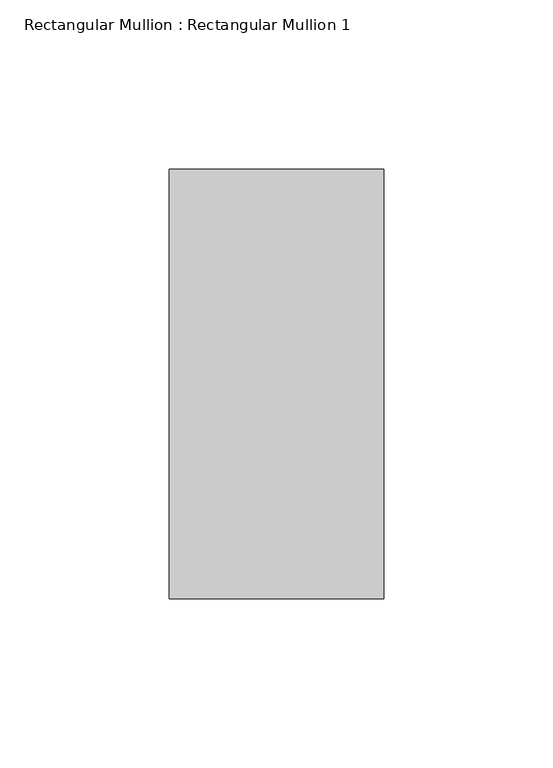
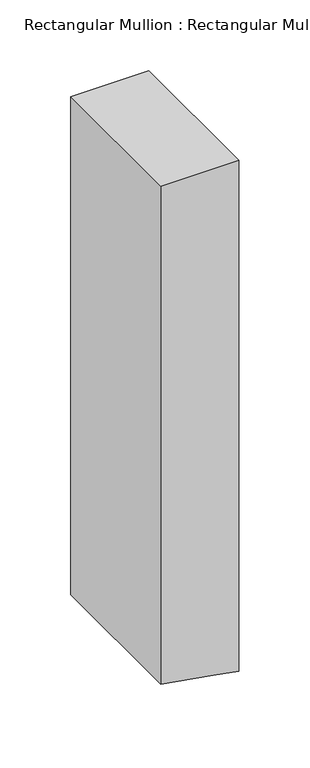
"""IFC4 building model written with IfcOpenShell, lengths in millimetres: member geometry, Rectangular Mullion : Rectangular Mullion 1."""

from ifc_helpers import new_model, si_unit, frame, origin, place, context, project, spatial, polyline, outline, extrude, source, transform, mapped, element, save


def rectangular_mullion_rectangular_mullion_1_1208470f(model_context):
    return source(origin(), model_context, "Body", "SweptSolid", [
        extrude(outline(polyline([(0.0, 31.75), (0.0, -31.75), (-428.6126459, -31.75), (-436.1553251, 11.0266593), (-439.8094092, 31.75), (0.0, 31.75)])), frame((0.0, -63.5, 0.0), z_axis=(0.0, 1.0, 0.0), x_axis=(0.0, 0.0, 1.0)), (0.0, 0.0, 1.0), 127.0),
    ])


if __name__ == "__main__":
    model = new_model("IFC4")
    model_context = context("Model", 3, world=origin())
    ifc_project = project(units=[si_unit("LENGTHUNIT", "METRE", prefix="MILLI")], contexts=[model_context])
    site = spatial("IfcSite", under=ifc_project)
    building = spatial("IfcBuilding", under=site)
    placement = place(None, origin())
    rectangular_mullion_rectangular_mullion_1_shape = rectangular_mullion_rectangular_mullion_1_1208470f(model_context)
    element("IfcMember", 1, ObjectType="Rectangular Mullion : Rectangular Mullion 1", at=placement, inside=building, context=model_context, shape_type="MappedRepresentation", body=[
        mapped(rectangular_mullion_rectangular_mullion_1_shape, transform((0.0, 0.0, 0.0), x_axis=(1.0, 0.0, 0.0), y_axis=(0.0, 1.0, 0.0), z_axis=(0.0, 0.0, 1.0))),
    ])
    save(model, "model.ifc")
